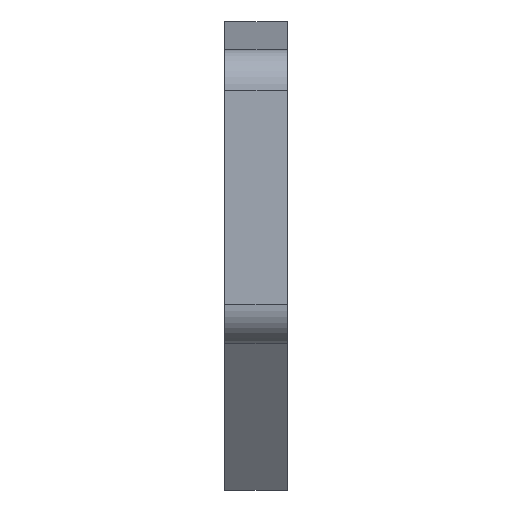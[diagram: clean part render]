
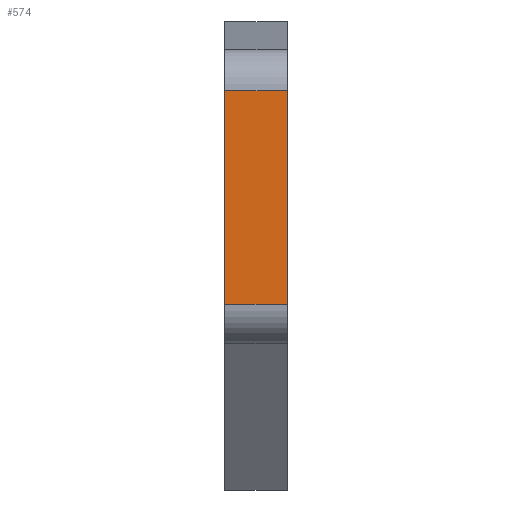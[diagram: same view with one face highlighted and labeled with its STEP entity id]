
A CAD part, front view. The second image highlights one B-rep face of the part: STEP entity #574.
In plain terms, the highlighted planar face has unit normal (0, -1, 0).
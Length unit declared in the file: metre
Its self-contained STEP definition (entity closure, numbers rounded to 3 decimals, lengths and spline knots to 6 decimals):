
#12=PLANE('',#619);
#34=LINE('',#832,#95);
#35=LINE('',#834,#96);
#36=LINE('',#836,#97);
#37=LINE('',#838,#98);
#95=VECTOR('',#673,1.);
#96=VECTOR('',#676,1.);
#97=VECTOR('',#677,1.);
#98=VECTOR('',#678,1.);
#159=ORIENTED_EDGE('',*,*,#316,.F.);
#160=ORIENTED_EDGE('',*,*,#317,.T.);
#161=ORIENTED_EDGE('',*,*,#318,.F.);
#162=ORIENTED_EDGE('',*,*,#319,.F.);
#316=EDGE_CURVE('',#395,#392,#34,.T.);
#317=EDGE_CURVE('',#395,#396,#35,.T.);
#318=EDGE_CURVE('',#397,#396,#36,.T.);
#319=EDGE_CURVE('',#392,#397,#37,.T.);
#392=VERTEX_POINT('',#826);
#395=VERTEX_POINT('',#831);
#396=VERTEX_POINT('',#835);
#397=VERTEX_POINT('',#837);
#467=EDGE_LOOP('',(#159,#160,#161,#162));
#516=FACE_BOUND('',#467,.T.);
#574=ADVANCED_FACE('',(#516),#12,.T.);
#619=AXIS2_PLACEMENT_3D('',#833,#674,#675);
#673=DIRECTION('',(1.,0.,0.));
#674=DIRECTION('',(0.,-1.,0.));
#675=DIRECTION('',(0.,0.,-1.));
#676=DIRECTION('',(0.,0.,-1.));
#677=DIRECTION('',(-1.,0.,0.));
#678=DIRECTION('',(0.,0.,-1.));
#826=CARTESIAN_POINT('',(-0.303942,-0.085499,0.199994));
#831=CARTESIAN_POINT('',(-0.309942,-0.085499,0.199994));
#832=CARTESIAN_POINT('',(-0.309942,-0.085499,0.199994));
#833=CARTESIAN_POINT('',(-0.309942,-0.085499,0.203613));
#834=CARTESIAN_POINT('',(-0.309942,-0.085499,0.203613));
#835=CARTESIAN_POINT('',(-0.309942,-0.085499,0.179484));
#836=CARTESIAN_POINT('',(-0.309942,-0.085499,0.179484));
#837=CARTESIAN_POINT('',(-0.303942,-0.085499,0.179484));
#838=CARTESIAN_POINT('',(-0.303942,-0.085499,0.203613));
